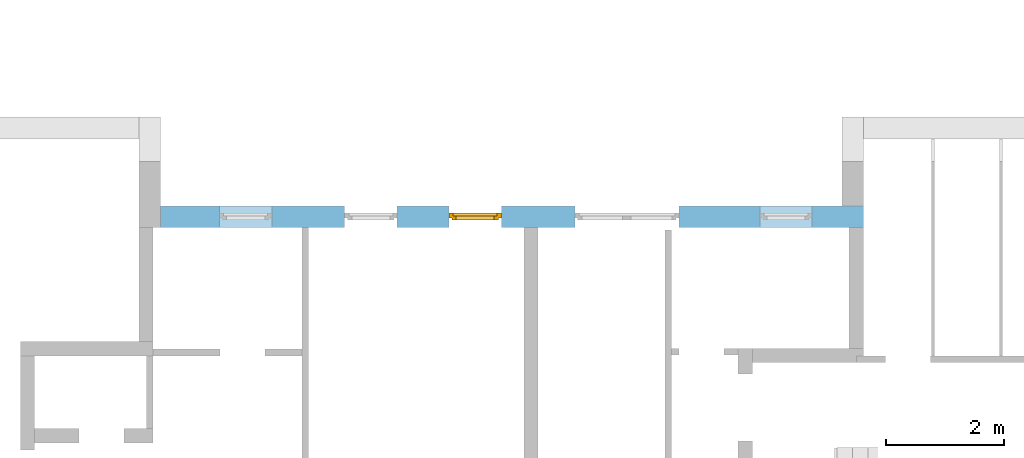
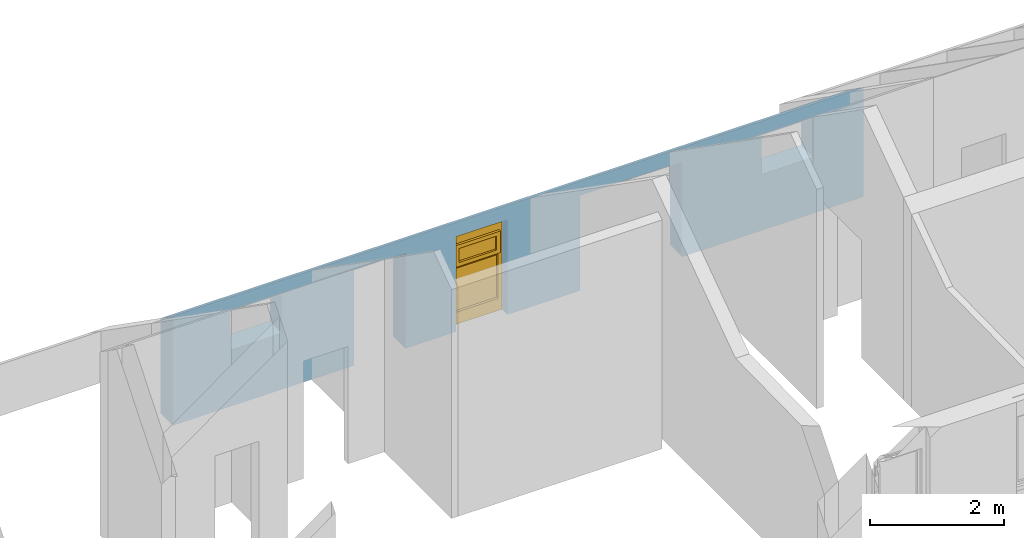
# One storey, part 19 of 23: 1 window, 5 openings, plus 1 element that does not belong to this part.
"""IFC2X3 building model written with IfcOpenShell, lengths in millimetres."""

from ifc_helpers import new_model, entity, si_unit, converted_unit, frame, frame_2d, origin, origin_with_axes, place, context, subcontext, project, spatial, rectangle, extrude, clip, halfspace, faceted_brep, material, layer, layer_set, layer_usage, type_object, element, fill, save


model = new_model("IFC2X3")

# Units and contexts
model_context = context("Model", 3, precision=1e-05, world=origin())
body_context = subcontext(model_context, "Body", "Model", "MODEL_VIEW")
ifc_project = project(units=[si_unit("LENGTHUNIT", "METRE", prefix="MILLI"), converted_unit("PLANEANGLEUNIT", "DEGREE", entity("IfcPlaneAngleMeasure", 0.0174532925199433), si_unit("PLANEANGLEUNIT", "RADIAN"), dimensions=[0, 0, 0, 0, 0, 0, 0]), si_unit("AREAUNIT", "SQUARE_METRE"), si_unit("VOLUMEUNIT", "CUBIC_METRE")], contexts=[model_context])

# Building, storey
building_placement = place(None, origin())
building = spatial("IfcBuilding", under=ifc_project, at=building_placement, Name="Gebäude", CompositionType="ELEMENT")
storey_placement = place(building_placement, frame((0.0, 0.0, 5580.0), z_axis=(0.0, 0.0, 1.0), x_axis=(1.0, 0.0, 0.0)))
storey = spatial("IfcBuildingStorey", under=building, at=storey_placement, Name="DG.- Grundriss", CompositionType="ELEMENT", Elevation=5580.0)

# Wall, openings, window
ifc_material_1 = material(Name="Poroton")
ifc_layer = layer(ifc_material_1, 365.0000000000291)
ifc_layer_set = layer_set([ifc_layer])
ifc_layer_usage = layer_usage(ifc_layer_set, "AXIS2", "POSITIVE", 0.0)
wall_placement = place(storey_placement, frame((176237.7928067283, 134774.8877324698, 0.0), z_axis=(0.0, 0.0, 1.0), x_axis=(-1.0, 0.0, 0.0)))
wall = element("IfcWallStandardCase", 1, at=wall_placement, inside=storey, material=ifc_layer_usage, Name="<Unnamed Element>", context=body_context, shape_type="Clipping", body=[
    clip(extrude(rectangle(XDim=11869.99999999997, YDim=365.0000000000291, at=frame_2d((5934.999999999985, 182.5000000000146), x_axis=(1.0, 0.0))), origin_with_axes(), (0.0, 0.0, 1.0), 1985.88705876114), halfspace(frame((0.0, 0.0, 1730.311307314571), z_axis=(3.082338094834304e-17, 0.5735764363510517, -0.8191520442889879), x_axis=(1.0, 0.0, 0.0)), True)),
])
opening_1_placement = place(wall_placement, frame((7875.000000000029, 0.0, 0.0), z_axis=(0.0, 1.0, 0.0), x_axis=(0.0, 0.0, 1.0)))
element("IfcOpeningElement", 2, at=opening_1_placement, cuts=wall, Name="Fensteröffnung", ObjectType="Opening", context=body_context, shape_type="SweptSolid", body=[
    extrude(rectangle(XDim=1730.311307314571, YDim=885.0, at=frame_2d((865.1556536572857, 442.5), x_axis=(1.0, 0.0))), origin_with_axes(), (0.0, 0.0, 1.0), 365.0000000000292),
])
opening_2_placement = place(wall_placement, frame((6115.000000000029, 0.0, 0.0), z_axis=(0.0, 1.0, 0.0), x_axis=(0.0, 0.0, 1.0)))
opening_2 = element("IfcOpeningElement", 3, at=opening_2_placement, cuts=wall, Name="Fensteröffnung", ObjectType="Opening", context=body_context, shape_type="SweptSolid", body=[
    extrude(rectangle(XDim=1730.311307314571, YDim=885.0, at=frame_2d((865.1556536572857, 442.5), x_axis=(1.0, 0.0))), origin_with_axes(), (0.0, 0.0, 1.0), 365.0000000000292),
])
opening_3_placement = place(wall_placement, frame((9990.00000000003, 0.0, 1020.0), z_axis=(0.0, 1.0, 0.0), x_axis=(0.0, 0.0, 1.0)))
element("IfcOpeningElement", 4, at=opening_3_placement, cuts=wall, Name="Fensteröffnung", ObjectType="Opening", context=body_context, shape_type="SweptSolid", body=[
    extrude(rectangle(XDim=710.3113073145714, YDim=885.0, at=frame_2d((355.1556536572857, 442.5), x_axis=(1.0, 0.0))), origin_with_axes(), (0.0, 0.0, 1.0), 365.0000000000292),
])
opening_4_placement = place(wall_placement, frame((3115.000000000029, 0.0, 0.0), z_axis=(0.0, 1.0, 0.0), x_axis=(0.0, 0.0, 1.0)))
element("IfcOpeningElement", 5, at=opening_4_placement, cuts=wall, Name="Fensteröffnung", ObjectType="Opening", context=body_context, shape_type="SweptSolid", body=[
    extrude(rectangle(XDim=1730.311307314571, YDim=1760.0, at=frame_2d((865.1556536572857, 880.0), x_axis=(1.0, 0.0))), origin_with_axes(), (0.0, 0.0, 1.0), 365.0000000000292),
])
opening_5_placement = place(wall_placement, frame((865.0000000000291, 0.0, 1020.0), z_axis=(0.0, 1.0, 0.0), x_axis=(0.0, 0.0, 1.0)))
element("IfcOpeningElement", 6, at=opening_5_placement, cuts=wall, Name="Fensteröffnung", ObjectType="Opening", context=body_context, shape_type="SweptSolid", body=[
    extrude(rectangle(XDim=710.3113073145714, YDim=885.0, at=frame_2d((355.1556536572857, 442.5), x_axis=(1.0, 0.0))), origin_with_axes(), (0.0, 0.0, 1.0), 365.0000000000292),
])
ifc_material_2 = material()
window_style = type_object("IfcWindowStyle", Name="Fenster", ConstructionType="NOTDEFINED", OperationType="USERDEFINED", ParameterTakesPrecedence=False, Sizeable=False)
window_placement = place(opening_2_placement, frame((0.0, 0.0, 0.0), z_axis=(1.0, 0.0, 0.0), x_axis=(0.0, 1.0, 0.0)))
window = element("IfcWindow", 7, at=window_placement, inside=storey, type_object=window_style, material=ifc_material_2, Name="Fenster", OverallHeight=1985.887058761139, OverallWidth=885.0, context=body_context, shape_type="Brep", body=[
    faceted_brep([(9.79717439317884e-15, 200.0000000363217, 1814.336211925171), (9.797174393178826e-15, 200.0000000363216, -2.449293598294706e-15), (70.00000000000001, 200.0000000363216, -2.449293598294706e-15), (70.00000000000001, 200.0000000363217, 1814.336211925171), (0.0, 120.0000000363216, 2.449293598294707e-15), (1.392262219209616e-29, 120.0000000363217, 1814.336211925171), (70.0, 120.0000000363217, 1814.336211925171), (70.0, 120.0000000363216, 2.449293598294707e-15), (9.797174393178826e-15, 200.0000000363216, -2.449293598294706e-15), (9.79717439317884e-15, 200.0000000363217, 1814.336211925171), (1.392262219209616e-29, 120.0000000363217, 1814.336211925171), (0.0, 120.0000000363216, 2.449293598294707e-15), (70.00000000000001, 200.0000000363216, -2.449293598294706e-15), (9.797174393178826e-15, 200.0000000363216, -2.449293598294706e-15), (0.0, 120.0000000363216, 2.449293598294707e-15), (70.0, 120.0000000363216, 2.449293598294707e-15), (70.00000000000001, 200.0000000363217, 1814.336211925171), (70.00000000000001, 200.0000000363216, -2.449293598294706e-15), (70.0, 120.0000000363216, 2.449293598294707e-15), (70.0, 120.0000000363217, 1814.336211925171), (9.79717439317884e-15, 200.0000000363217, 1814.336211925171), (70.00000000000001, 200.0000000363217, 1814.336211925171), (70.0, 120.0000000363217, 1814.336211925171), (1.392262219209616e-29, 120.0000000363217, 1814.336211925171)], [[[0, 1, 2, 3]], [[4, 5, 6, 7]], [[8, 9, 10, 11]], [[12, 13, 14, 15]], [[16, 17, 18, 19]], [[20, 21, 22, 23]]], orient=[[False], [False], [False], [False], [False], [False]]),
    faceted_brep([(815.0000000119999, 200.0000000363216, 1814.336211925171), (815.0000000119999, 200.0000000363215, -2.449293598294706e-15), (885.0000000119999, 200.0000000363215, -2.449293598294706e-15), (885.0000000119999, 200.0000000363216, 1814.336211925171), (815.0000000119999, 120.0000000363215, 2.449293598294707e-15), (815.0000000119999, 120.0000000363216, 1814.336211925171), (885.0000000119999, 120.0000000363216, 1814.336211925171), (885.0000000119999, 120.0000000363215, 2.449293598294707e-15), (815.0000000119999, 200.0000000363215, -2.449293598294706e-15), (815.0000000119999, 200.0000000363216, 1814.336211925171), (815.0000000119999, 120.0000000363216, 1814.336211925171), (815.0000000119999, 120.0000000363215, 2.449293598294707e-15), (885.0000000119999, 200.0000000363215, -2.449293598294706e-15), (815.0000000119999, 200.0000000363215, -2.449293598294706e-15), (815.0000000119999, 120.0000000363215, 2.449293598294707e-15), (885.0000000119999, 120.0000000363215, 2.449293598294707e-15), (885.0000000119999, 200.0000000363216, 1814.336211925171), (885.0000000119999, 200.0000000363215, -2.449293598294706e-15), (885.0000000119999, 120.0000000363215, 2.449293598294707e-15), (885.0000000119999, 120.0000000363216, 1814.336211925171), (815.0000000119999, 200.0000000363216, 1814.336211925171), (885.0000000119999, 200.0000000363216, 1814.336211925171), (885.0000000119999, 120.0000000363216, 1814.336211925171), (815.0000000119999, 120.0000000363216, 1814.336211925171)], [[[0, 1, 2, 3]], [[4, 5, 6, 7]], [[8, 9, 10, 11]], [[12, 13, 14, 15]], [[16, 17, 18, 19]], [[20, 21, 22, 23]]], orient=[[False], [False], [False], [False], [False], [False]]),
    faceted_brep([(70.00000000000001, 200.0000000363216, 220.0), (70.00000000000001, 200.0000000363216, -2.449293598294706e-15), (815.0000000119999, 200.0000000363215, -2.449293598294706e-15), (815.0000000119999, 200.0000000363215, 220.0), (70.0, 120.0000000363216, 2.449293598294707e-15), (70.0, 120.0000000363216, 220.0), (815.0000000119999, 120.0000000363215, 220.0), (815.0000000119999, 120.0000000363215, 2.449293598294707e-15), (70.00000000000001, 200.0000000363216, -2.449293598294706e-15), (70.00000000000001, 200.0000000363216, 220.0), (70.0, 120.0000000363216, 220.0), (70.0, 120.0000000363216, 2.449293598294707e-15), (815.0000000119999, 200.0000000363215, -2.449293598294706e-15), (70.00000000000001, 200.0000000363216, -2.449293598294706e-15), (70.0, 120.0000000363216, 2.449293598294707e-15), (815.0000000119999, 120.0000000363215, 2.449293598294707e-15), (815.0000000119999, 200.0000000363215, 220.0), (815.0000000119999, 200.0000000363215, -2.449293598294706e-15), (815.0000000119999, 120.0000000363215, 2.449293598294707e-15), (815.0000000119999, 120.0000000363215, 220.0), (70.00000000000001, 200.0000000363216, 220.0), (815.0000000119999, 200.0000000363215, 220.0), (815.0000000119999, 120.0000000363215, 220.0), (70.0, 120.0000000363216, 220.0)], [[[0, 1, 2, 3]], [[4, 5, 6, 7]], [[8, 9, 10, 11]], [[12, 13, 14, 15]], [[16, 17, 18, 19]], [[20, 21, 22, 23]]], orient=[[False], [False], [False], [False], [False], [False]]),
    faceted_brep([(70.00000000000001, 200.0000000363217, 1814.336211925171), (70.00000000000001, 200.0000000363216, 1444.336211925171), (815.0000000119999, 200.0000000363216, 1444.336211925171), (815.0000000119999, 200.0000000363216, 1814.336211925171), (70.0, 120.0000000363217, 1444.336211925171), (70.0, 120.0000000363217, 1814.336211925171), (815.0000000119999, 120.0000000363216, 1814.336211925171), (815.0000000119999, 120.0000000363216, 1444.336211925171), (70.00000000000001, 200.0000000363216, 1444.336211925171), (70.00000000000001, 200.0000000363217, 1814.336211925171), (70.0, 120.0000000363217, 1814.336211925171), (70.0, 120.0000000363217, 1444.336211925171), (815.0000000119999, 200.0000000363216, 1444.336211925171), (70.00000000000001, 200.0000000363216, 1444.336211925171), (70.0, 120.0000000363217, 1444.336211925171), (815.0000000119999, 120.0000000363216, 1444.336211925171), (815.0000000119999, 200.0000000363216, 1814.336211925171), (815.0000000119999, 200.0000000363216, 1444.336211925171), (815.0000000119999, 120.0000000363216, 1444.336211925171), (815.0000000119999, 120.0000000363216, 1814.336211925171), (70.00000000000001, 200.0000000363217, 1814.336211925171), (815.0000000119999, 200.0000000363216, 1814.336211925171), (815.0000000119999, 120.0000000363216, 1814.336211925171), (70.0, 120.0000000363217, 1814.336211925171)], [[[0, 1, 2, 3]], [[4, 5, 6, 7]], [[8, 9, 10, 11]], [[12, 13, 14, 15]], [[16, 17, 18, 19]], [[20, 21, 22, 23]]], orient=[[False], [False], [False], [False], [False], [False]]),
    faceted_brep([(70.00000000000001, 200.0000000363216, 1090.0), (70.00000000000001, 200.0000000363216, 1020.0), (815.0000000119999, 200.0000000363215, 1020.0), (815.0000000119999, 200.0000000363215, 1090.0), (70.0, 120.0000000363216, 1020.0), (70.0, 120.0000000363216, 1090.0), (815.0000000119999, 120.0000000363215, 1090.0), (815.0000000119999, 120.0000000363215, 1020.0), (70.00000000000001, 200.0000000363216, 1020.0), (70.00000000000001, 200.0000000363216, 1090.0), (70.0, 120.0000000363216, 1090.0), (70.0, 120.0000000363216, 1020.0), (815.0000000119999, 200.0000000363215, 1020.0), (70.00000000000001, 200.0000000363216, 1020.0), (70.0, 120.0000000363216, 1020.0), (815.0000000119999, 120.0000000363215, 1020.0), (815.0000000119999, 200.0000000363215, 1090.0), (815.0000000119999, 200.0000000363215, 1020.0), (815.0000000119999, 120.0000000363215, 1020.0), (815.0000000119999, 120.0000000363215, 1090.0), (70.00000000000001, 200.0000000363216, 1090.0), (815.0000000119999, 200.0000000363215, 1090.0), (815.0000000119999, 120.0000000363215, 1090.0), (70.0, 120.0000000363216, 1090.0)], [[[0, 1, 2, 3]], [[4, 5, 6, 7]], [[8, 9, 10, 11]], [[12, 13, 14, 15]], [[16, 17, 18, 19]], [[20, 21, 22, 23]]], orient=[[False], [False], [False], [False], [False], [False]]),
    faceted_brep([(70.0, 160.0000000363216, 220.0), (815.0000000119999, 160.0000000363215, 220.0), (815.0000000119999, 160.0000000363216, 1020.0), (70.0, 160.0000000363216, 1020.0), (70.0, 159.0000000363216, 220.0), (70.0, 159.0000000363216, 1020.0), (815.0000000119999, 159.0000000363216, 1020.0), (815.0000000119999, 159.0000000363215, 220.0), (70.0, 160.0000000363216, 220.0), (70.0, 159.0000000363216, 220.0), (815.0000000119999, 159.0000000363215, 220.0), (815.0000000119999, 160.0000000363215, 220.0), (815.0000000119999, 160.0000000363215, 220.0), (815.0000000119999, 159.0000000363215, 220.0), (815.0000000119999, 159.0000000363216, 1020.0), (815.0000000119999, 160.0000000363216, 1020.0), (815.0000000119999, 160.0000000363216, 1020.0), (815.0000000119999, 159.0000000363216, 1020.0), (70.0, 159.0000000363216, 1020.0), (70.0, 160.0000000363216, 1020.0), (70.0, 160.0000000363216, 1020.0), (70.0, 159.0000000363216, 1020.0), (70.0, 159.0000000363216, 220.0), (70.0, 160.0000000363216, 220.0)], [[[0, 1, 2, 3]], [[4, 5, 6, 7]], [[8, 9, 10, 11]], [[12, 13, 14, 15]], [[16, 17, 18, 19]], [[20, 21, 22, 23]]], orient=[[False], [False], [False], [False], [False], [False]]),
    faceted_brep([(50.00000000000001, 240.0000000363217, 1464.336211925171), (50.00000000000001, 240.0000000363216, 1070.0), (120.0, 240.0000000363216, 1070.0), (120.0, 240.0000000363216, 1464.336211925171), (50.00000000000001, 170.0000000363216, 1070.0), (50.00000000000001, 170.0000000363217, 1464.336211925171), (120.0, 170.0000000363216, 1464.336211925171), (120.0, 170.0000000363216, 1070.0), (50.00000000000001, 240.0000000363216, 1070.0), (50.00000000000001, 240.0000000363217, 1464.336211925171), (50.00000000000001, 170.0000000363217, 1464.336211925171), (50.00000000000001, 170.0000000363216, 1070.0), (120.0, 240.0000000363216, 1070.0), (50.00000000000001, 240.0000000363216, 1070.0), (50.00000000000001, 170.0000000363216, 1070.0), (120.0, 170.0000000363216, 1070.0), (120.0, 240.0000000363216, 1464.336211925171), (120.0, 240.0000000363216, 1070.0), (120.0, 170.0000000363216, 1070.0), (120.0, 170.0000000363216, 1464.336211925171), (50.00000000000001, 240.0000000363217, 1464.336211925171), (120.0, 240.0000000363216, 1464.336211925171), (120.0, 170.0000000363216, 1464.336211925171), (50.00000000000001, 170.0000000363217, 1464.336211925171)], [[[0, 1, 2, 3]], [[4, 5, 6, 7]], [[8, 9, 10, 11]], [[12, 13, 14, 15]], [[16, 17, 18, 19]], [[20, 21, 22, 23]]], orient=[[False], [False], [False], [False], [False], [False]]),
    faceted_brep([(765.0000000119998, 240.0000000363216, 1464.336211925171), (765.0000000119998, 240.0000000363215, 1070.0), (835.0000000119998, 240.0000000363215, 1070.0), (835.0000000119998, 240.0000000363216, 1464.336211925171), (765.0000000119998, 170.0000000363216, 1070.0), (765.0000000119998, 170.0000000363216, 1464.336211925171), (835.0000000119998, 170.0000000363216, 1464.336211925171), (835.0000000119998, 170.0000000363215, 1070.0), (765.0000000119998, 240.0000000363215, 1070.0), (765.0000000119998, 240.0000000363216, 1464.336211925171), (765.0000000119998, 170.0000000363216, 1464.336211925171), (765.0000000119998, 170.0000000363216, 1070.0), (835.0000000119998, 240.0000000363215, 1070.0), (765.0000000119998, 240.0000000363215, 1070.0), (765.0000000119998, 170.0000000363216, 1070.0), (835.0000000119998, 170.0000000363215, 1070.0), (835.0000000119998, 240.0000000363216, 1464.336211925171), (835.0000000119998, 240.0000000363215, 1070.0), (835.0000000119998, 170.0000000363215, 1070.0), (835.0000000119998, 170.0000000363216, 1464.336211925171), (765.0000000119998, 240.0000000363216, 1464.336211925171), (835.0000000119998, 240.0000000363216, 1464.336211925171), (835.0000000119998, 170.0000000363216, 1464.336211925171), (765.0000000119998, 170.0000000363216, 1464.336211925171)], [[[0, 1, 2, 3]], [[4, 5, 6, 7]], [[8, 9, 10, 11]], [[12, 13, 14, 15]], [[16, 17, 18, 19]], [[20, 21, 22, 23]]], orient=[[False], [False], [False], [False], [False], [False]]),
    faceted_brep([(120.0, 240.0000000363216, 1140.0), (120.0, 240.0000000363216, 1070.0), (765.0000000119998, 240.0000000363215, 1070.0), (765.0000000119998, 240.0000000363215, 1140.0), (120.0, 170.0000000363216, 1070.0), (120.0, 170.0000000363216, 1140.0), (765.0000000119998, 170.0000000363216, 1140.0), (765.0000000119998, 170.0000000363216, 1070.0), (120.0, 240.0000000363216, 1070.0), (120.0, 240.0000000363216, 1140.0), (120.0, 170.0000000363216, 1140.0), (120.0, 170.0000000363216, 1070.0), (765.0000000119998, 240.0000000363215, 1070.0), (120.0, 240.0000000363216, 1070.0), (120.0, 170.0000000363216, 1070.0), (765.0000000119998, 170.0000000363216, 1070.0), (765.0000000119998, 240.0000000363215, 1140.0), (765.0000000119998, 240.0000000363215, 1070.0), (765.0000000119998, 170.0000000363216, 1070.0), (765.0000000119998, 170.0000000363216, 1140.0), (120.0, 240.0000000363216, 1140.0), (765.0000000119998, 240.0000000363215, 1140.0), (765.0000000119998, 170.0000000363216, 1140.0), (120.0, 170.0000000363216, 1140.0)], [[[0, 1, 2, 3]], [[4, 5, 6, 7]], [[8, 9, 10, 11]], [[12, 13, 14, 15]], [[16, 17, 18, 19]], [[20, 21, 22, 23]]], orient=[[False], [False], [False], [False], [False], [False]]),
    faceted_brep([(120.0, 240.0000000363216, 1464.336211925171), (120.0, 240.0000000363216, 1394.336211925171), (765.0000000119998, 240.0000000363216, 1394.336211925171), (765.0000000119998, 240.0000000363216, 1464.336211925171), (120.0, 170.0000000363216, 1394.336211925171), (120.0, 170.0000000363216, 1464.336211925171), (765.0000000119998, 170.0000000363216, 1464.336211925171), (765.0000000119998, 170.0000000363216, 1394.336211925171), (120.0, 240.0000000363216, 1394.336211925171), (120.0, 240.0000000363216, 1464.336211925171), (120.0, 170.0000000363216, 1464.336211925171), (120.0, 170.0000000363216, 1394.336211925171), (765.0000000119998, 240.0000000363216, 1394.336211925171), (120.0, 240.0000000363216, 1394.336211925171), (120.0, 170.0000000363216, 1394.336211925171), (765.0000000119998, 170.0000000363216, 1394.336211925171), (765.0000000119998, 240.0000000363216, 1464.336211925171), (765.0000000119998, 240.0000000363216, 1394.336211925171), (765.0000000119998, 170.0000000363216, 1394.336211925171), (765.0000000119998, 170.0000000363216, 1464.336211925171), (120.0, 240.0000000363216, 1464.336211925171), (765.0000000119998, 240.0000000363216, 1464.336211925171), (765.0000000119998, 170.0000000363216, 1464.336211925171), (120.0, 170.0000000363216, 1464.336211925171)], [[[0, 1, 2, 3]], [[4, 5, 6, 7]], [[8, 9, 10, 11]], [[12, 13, 14, 15]], [[16, 17, 18, 19]], [[20, 21, 22, 23]]], orient=[[False], [False], [False], [False], [False], [False]]),
    faceted_brep([(120.0, 205.0000000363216, 1140.0), (765.0000000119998, 205.0000000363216, 1140.0), (765.0000000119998, 205.0000000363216, 1394.336211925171), (120.0, 205.0000000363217, 1394.336211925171), (120.0, 204.0000000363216, 1140.0), (120.0, 204.0000000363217, 1394.336211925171), (765.0000000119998, 204.0000000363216, 1394.336211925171), (765.0000000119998, 204.0000000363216, 1140.0), (120.0, 205.0000000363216, 1140.0), (120.0, 204.0000000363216, 1140.0), (765.0000000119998, 204.0000000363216, 1140.0), (765.0000000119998, 205.0000000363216, 1140.0), (765.0000000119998, 205.0000000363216, 1140.0), (765.0000000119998, 204.0000000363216, 1140.0), (765.0000000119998, 204.0000000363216, 1394.336211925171), (765.0000000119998, 205.0000000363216, 1394.336211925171), (765.0000000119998, 205.0000000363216, 1394.336211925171), (765.0000000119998, 204.0000000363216, 1394.336211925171), (120.0, 204.0000000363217, 1394.336211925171), (120.0, 205.0000000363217, 1394.336211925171), (120.0, 205.0000000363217, 1394.336211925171), (120.0, 204.0000000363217, 1394.336211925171), (120.0, 204.0000000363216, 1140.0), (120.0, 205.0000000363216, 1140.0)], [[[0, 1, 2, 3]], [[4, 5, 6, 7]], [[8, 9, 10, 11]], [[12, 13, 14, 15]], [[16, 17, 18, 19]], [[20, 21, 22, 23]]], orient=[[False], [False], [False], [False], [False], [False]]),
])
fill(opening_2, window)

save(model, "model.ifc")
